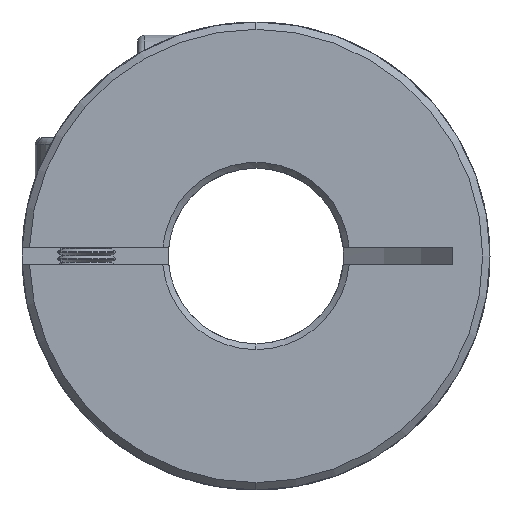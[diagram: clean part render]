
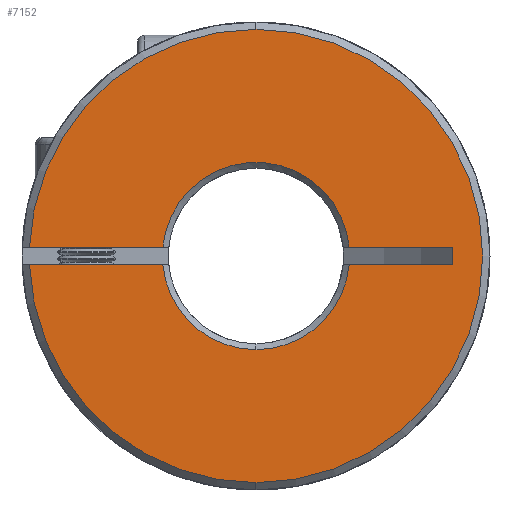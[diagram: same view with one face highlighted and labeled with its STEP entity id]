
A CAD part, front view. The second image highlights one B-rep face of the part: STEP entity #7152.
In plain terms, the highlighted planar face has unit normal (0, -1, 0).
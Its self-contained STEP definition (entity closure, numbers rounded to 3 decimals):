
#394 = EDGE_CURVE ( 'NONE', #10274, #8765, #4689, .T. ) ;
#413 = AXIS2_PLACEMENT_3D ( 'NONE', #3002, #7309, #9969 ) ;
#435 = CARTESIAN_POINT ( 'NONE',  ( -50., 0., 0.6 ) ) ;
#526 = CARTESIAN_POINT ( 'NONE',  ( -50., 0., -18.413 ) ) ;
#626 = CARTESIAN_POINT ( 'NONE',  ( 0., 0., 0. ) ) ;
#646 = CARTESIAN_POINT ( 'NONE',  ( -6.372, 0., 0.6 ) ) ;
#841 = DIRECTION ( 'NONE',  ( 0., -1., 0. ) ) ;
#950 = CARTESIAN_POINT ( 'NONE',  ( 6.372, 0., -0.6 ) ) ;
#1008 = AXIS2_PLACEMENT_3D ( 'NONE', #10723, #10767, #8408 ) ;
#1012 = VERTEX_POINT ( 'NONE', #9578 ) ;
#1057 = VECTOR ( 'NONE', #10762, 1000. ) ;
#1168 = CARTESIAN_POINT ( 'NONE',  ( 13.436, 0., -0.6 ) ) ;
#1413 = VERTEX_POINT ( 'NONE', #6510 ) ;
#1448 = CARTESIAN_POINT ( 'NONE',  ( -50., 0., 0.6 ) ) ;
#1483 = DIRECTION ( 'NONE',  ( 0., 0., 1. ) ) ;
#1500 = CARTESIAN_POINT ( 'NONE',  ( -15.488, 0., -0.6 ) ) ;
#1905 = ORIENTED_EDGE ( 'NONE', *, *, #6090, .T. ) ;
#2022 = CARTESIAN_POINT ( 'NONE',  ( 0., 0., -15.5 ) ) ;
#2157 = CIRCLE ( 'NONE', #7383, 6.4 ) ;
#2285 = DIRECTION ( 'NONE',  ( 0., -1., 0. ) ) ;
#2295 = CARTESIAN_POINT ( 'NONE',  ( -50., 0., -0.6 ) ) ;
#2659 = DIRECTION ( 'NONE',  ( 0., 0., 1. ) ) ;
#3002 = CARTESIAN_POINT ( 'NONE',  ( 0., 0., 0. ) ) ;
#3295 = EDGE_CURVE ( 'NONE', #7349, #11126, #3701, .T. ) ;
#3301 = DIRECTION ( 'NONE',  ( 0., 0., 1. ) ) ;
#3374 = CARTESIAN_POINT ( 'NONE',  ( 0., 0., 0. ) ) ;
#3670 = AXIS2_PLACEMENT_3D ( 'NONE', #526, #6605, #1483 ) ;
#3701 = LINE ( 'NONE', #5621, #7923 ) ;
#3808 = VERTEX_POINT ( 'NONE', #2022 ) ;
#3942 = AXIS2_PLACEMENT_3D ( 'NONE', #10591, #10450, #2659 ) ;
#4063 = CARTESIAN_POINT ( 'NONE',  ( 0., 0., 15.5 ) ) ;
#4526 = CARTESIAN_POINT ( 'NONE',  ( -50., 0., -0.6 ) ) ;
#4602 = VECTOR ( 'NONE', #5418, 1000. ) ;
#4654 = VERTEX_POINT ( 'NONE', #950 ) ;
#4661 = CIRCLE ( 'NONE', #3942, 15.5 ) ;
#4689 = CIRCLE ( 'NONE', #413, 6.4 ) ;
#4804 = AXIS2_PLACEMENT_3D ( 'NONE', #3374, #841, #3301 ) ;
#4834 = PLANE ( 'NONE',  #3670 ) ;
#4868 = ORIENTED_EDGE ( 'NONE', *, *, #10571, .F. ) ;
#4913 = ORIENTED_EDGE ( 'NONE', *, *, #5741, .T. ) ;
#4948 = EDGE_CURVE ( 'NONE', #3808, #11150, #7602, .T. ) ;
#5006 = LINE ( 'NONE', #4526, #4602 ) ;
#5155 = EDGE_CURVE ( 'NONE', #11209, #1413, #2157, .T. ) ;
#5418 = DIRECTION ( 'NONE',  ( 1., 0., 0. ) ) ;
#5431 = DIRECTION ( 'NONE',  ( 0., 1., 0. ) ) ;
#5621 = CARTESIAN_POINT ( 'NONE',  ( 13.436, 0., -0.6 ) ) ;
#5741 = EDGE_CURVE ( 'NONE', #1012, #10274, #10694, .T. ) ;
#5935 = ORIENTED_EDGE ( 'NONE', *, *, #9189, .T. ) ;
#6090 = EDGE_CURVE ( 'NONE', #11150, #1012, #10557, .T. ) ;
#6306 = ORIENTED_EDGE ( 'NONE', *, *, #5155, .T. ) ;
#6310 = ORIENTED_EDGE ( 'NONE', *, *, #7126, .F. ) ;
#6510 = CARTESIAN_POINT ( 'NONE',  ( -6.372, 0., -0.6 ) ) ;
#6520 = DIRECTION ( 'NONE',  ( 1., 0., 0. ) ) ;
#6605 = DIRECTION ( 'NONE',  ( 0., 1., 0. ) ) ;
#6906 = EDGE_CURVE ( 'NONE', #9667, #3808, #4661, .T. ) ;
#6983 = EDGE_LOOP ( 'NONE', ( #4868, #10552, #10665, #1905, #4913, #9697, #9985, #7645, #6310, #5935, #6306 ) ) ;
#7126 = EDGE_CURVE ( 'NONE', #4654, #11126, #9991, .T. ) ;
#7152 = ADVANCED_FACE ( 'NONE', ( #9709 ), #4834, .F. ) ;
#7163 = EDGE_CURVE ( 'NONE', #8765, #7349, #7424, .T. ) ;
#7309 = DIRECTION ( 'NONE',  ( 0., 1., 0. ) ) ;
#7349 = VERTEX_POINT ( 'NONE', #9495 ) ;
#7383 = AXIS2_PLACEMENT_3D ( 'NONE', #8125, #5431, #9876 ) ;
#7401 = DIRECTION ( 'NONE',  ( 0., 0., -1. ) ) ;
#7424 = LINE ( 'NONE', #1448, #10931 ) ;
#7602 = CIRCLE ( 'NONE', #4804, 15.5 ) ;
#7645 = ORIENTED_EDGE ( 'NONE', *, *, #3295, .T. ) ;
#7788 = CIRCLE ( 'NONE', #1008, 6.4 ) ;
#7923 = VECTOR ( 'NONE', #7401, 1000. ) ;
#8125 = CARTESIAN_POINT ( 'NONE',  ( 0., 0., 0. ) ) ;
#8406 = DIRECTION ( 'NONE',  ( 0., 0., 1. ) ) ;
#8408 = DIRECTION ( 'NONE',  ( 0., 0., 1. ) ) ;
#8765 = VERTEX_POINT ( 'NONE', #11191 ) ;
#9189 = EDGE_CURVE ( 'NONE', #4654, #11209, #7788, .T. ) ;
#9439 = CARTESIAN_POINT ( 'NONE',  ( 0., 0., -6.4 ) ) ;
#9495 = CARTESIAN_POINT ( 'NONE',  ( 13.436, 0., 0.6 ) ) ;
#9578 = CARTESIAN_POINT ( 'NONE',  ( -15.488, 0., 0.6 ) ) ;
#9667 = VERTEX_POINT ( 'NONE', #1500 ) ;
#9697 = ORIENTED_EDGE ( 'NONE', *, *, #394, .T. ) ;
#9709 = FACE_OUTER_BOUND ( 'NONE', #6983, .T. ) ;
#9856 = AXIS2_PLACEMENT_3D ( 'NONE', #626, #2285, #8406 ) ;
#9876 = DIRECTION ( 'NONE',  ( 0., 0., 1. ) ) ;
#9969 = DIRECTION ( 'NONE',  ( 0., 0., 1. ) ) ;
#9985 = ORIENTED_EDGE ( 'NONE', *, *, #7163, .T. ) ;
#9991 = LINE ( 'NONE', #2295, #11221 ) ;
#10274 = VERTEX_POINT ( 'NONE', #646 ) ;
#10298 = DIRECTION ( 'NONE',  ( 1., 0., 0. ) ) ;
#10450 = DIRECTION ( 'NONE',  ( 0., -1., 0. ) ) ;
#10552 = ORIENTED_EDGE ( 'NONE', *, *, #6906, .T. ) ;
#10557 = CIRCLE ( 'NONE', #9856, 15.5 ) ;
#10571 = EDGE_CURVE ( 'NONE', #9667, #1413, #5006, .T. ) ;
#10591 = CARTESIAN_POINT ( 'NONE',  ( 0., 0., 0. ) ) ;
#10665 = ORIENTED_EDGE ( 'NONE', *, *, #4948, .T. ) ;
#10694 = LINE ( 'NONE', #435, #1057 ) ;
#10723 = CARTESIAN_POINT ( 'NONE',  ( 0., 0., 0. ) ) ;
#10762 = DIRECTION ( 'NONE',  ( 1., 0., 0. ) ) ;
#10767 = DIRECTION ( 'NONE',  ( 0., 1., 0. ) ) ;
#10931 = VECTOR ( 'NONE', #10298, 1000. ) ;
#11126 = VERTEX_POINT ( 'NONE', #1168 ) ;
#11150 = VERTEX_POINT ( 'NONE', #4063 ) ;
#11191 = CARTESIAN_POINT ( 'NONE',  ( 6.372, 0., 0.6 ) ) ;
#11209 = VERTEX_POINT ( 'NONE', #9439 ) ;
#11221 = VECTOR ( 'NONE', #6520, 1000. ) ;
